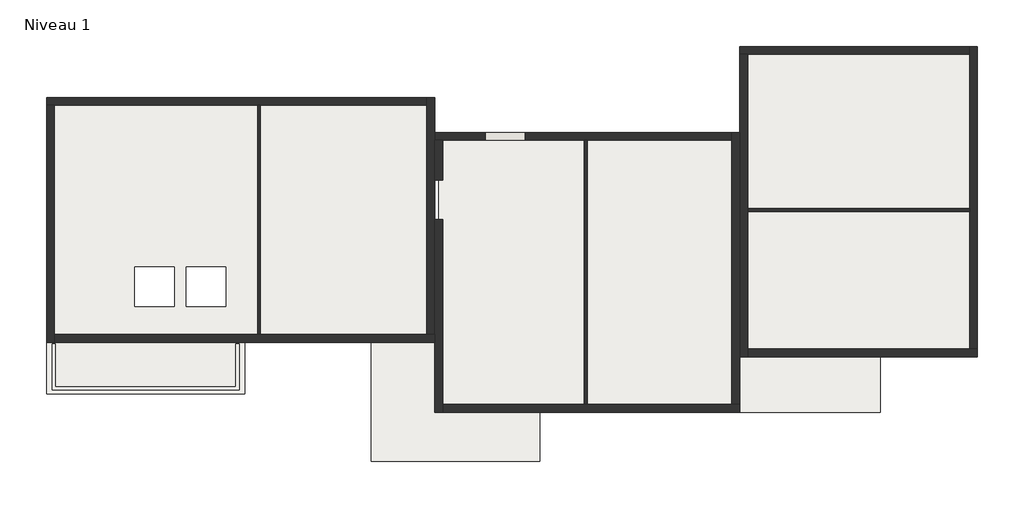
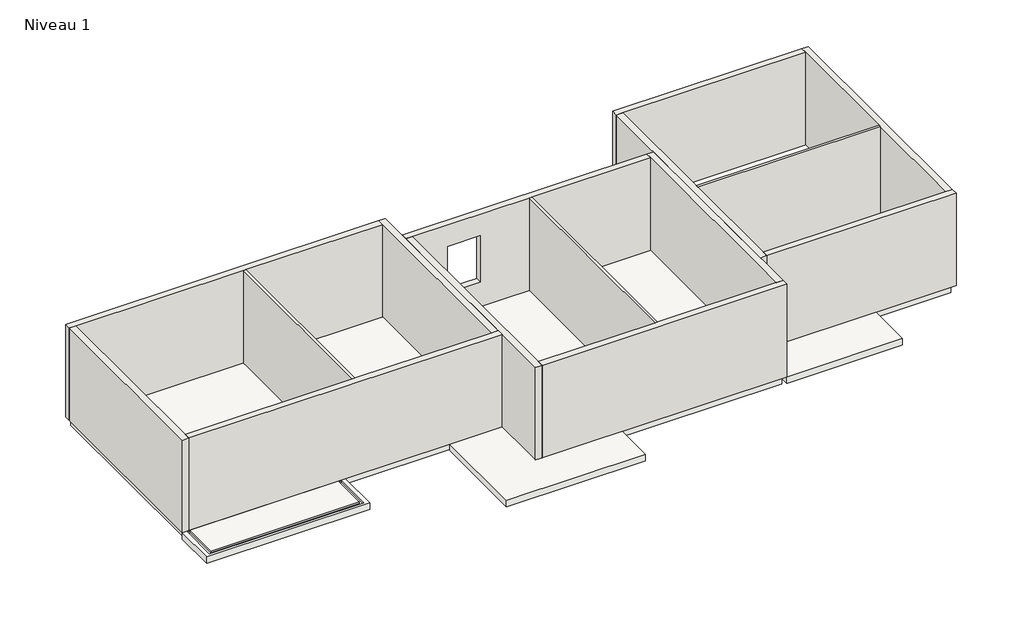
# One storey: 15 walls, 2 slabs.
"""IFC4 building model written with IfcOpenShell, lengths in millimetres."""

from ifc_helpers import new_model, si_unit, frame, origin, place, context, project, spatial, polyline, outline, extrude, faceted_brep, element, save

model = new_model("IFC4")

# Units and contexts
model_context = context("Model", 3, world=origin())
ifc_project = project(units=[si_unit("LENGTHUNIT", "METRE", prefix="MILLI")], contexts=[model_context])

# Site, building, storey
site = spatial("IfcSite", under=ifc_project)
building = spatial("IfcBuilding", under=site)
storey = spatial("IfcBuildingStorey", under=building, Name="Niveau 1", Elevation=3000.0)

# Slabs
placement = place(None, origin())
element("IfcSlab", 1, ObjectType="Dalle en béton - 250 mm", at=placement, inside=storey, context=model_context, shape_type="SweptSolid", body=[
    extrude(outline(polyline([(-1285.4947256, 1512.0061152), (-1285.4947256, -4479.7207763), (-10885.4947256, -4479.7207763), (-10885.4947256, 1512.0061152), (-1285.4947256, 1512.0061152)]), holes=[polyline([(-6455.4947256, -2671.4012839), (-7455.4947256, -2671.4012839), (-7455.4947256, -3671.4012839), (-6455.4947256, -3671.4012839), (-6455.4947256, -2671.4012839)]), polyline([(-7760.2947256, -2671.4012839), (-8760.2947256, -2671.4012839), (-8760.2947256, -3671.4012839), (-7760.2947256, -3671.4012839), (-7760.2947256, -2671.4012839)])]), frame((0.0, 0.0, 2750.0), z_axis=(0.0, 0.0, 1.0), x_axis=(1.0, 0.0, 0.0)), (0.0, 0.0, 1.0), 250.0),
    extrude(outline(polyline([(6414.5052744, -6248.7856024), (-1085.4947256, -6248.7856024), (-1085.4947256, 627.4737022), (6414.5052744, 627.4737022), (6414.5052744, -6248.7856024)])), frame((0.0, 0.0, 2750.0), z_axis=(0.0, 0.0, 1.0), x_axis=(1.0, 0.0, 0.0)), (0.0, 0.0, 1.0), 250.0),
    extrude(outline(polyline([(12414.5052744, 2798.5987161), (12414.5052744, -4841.5749452), (6614.5052744, -4841.5749452), (6614.5052744, 2798.5987161), (12414.5052744, 2798.5987161)])), frame((0.0, 0.0, 2750.0), z_axis=(0.0, 0.0, 1.0), x_axis=(1.0, 0.0, 0.0)), (0.0, 0.0, 1.0), 250.0),
])
element("IfcSlab", 2, ObjectType="Béton 160 mm avec platelage métallique 50 mm", at=placement, inside=storey, context=model_context, shape_type="Brep", body=[
    faceted_brep([(-5985.4947256, -4579.7207763, 2790.0), (-5985.4947256, -5879.7207763, 2790.0), (-10985.4947256, -5879.7207763, 2790.0), (-10985.4947256, -4579.7207763, 2790.0), (-5985.4947256, -5879.7207763, 3000.0), (-5985.4947256, -4579.7207763, 3000.0), (-10985.4947256, -4579.7207763, 3000.0), (-10985.4947256, -5879.7207763, 3000.0), (-10845.4947256, -4619.7207763, 3000.0), (-10765.4947256, -4619.7207763, 3000.0), (-10765.4947256, -5698.0339874, 3000.0), (-6205.4947256, -5698.0339874, 3000.0), (-6205.4947256, -4619.7207763, 3000.0), (-6125.4947256, -4619.7207763, 3000.0), (-6125.4947256, -5778.0339874, 3000.0), (-10845.4947256, -5778.0339874, 3000.0), (-10845.4947256, -4619.7207763, 2950.0), (-10765.4947256, -4619.7207763, 2950.0), (-10845.4947256, -5778.0339874, 2950.0), (-10765.4947256, -5698.0339874, 2950.0), (-6125.4947256, -5778.0339874, 2950.0), (-6125.4947256, -4619.7207763, 2950.0), (-6205.4947256, -4619.7207763, 2950.0), (-6205.4947256, -5698.0339874, 2950.0)], [[[0, 1, 2, 3]], [[4, 5, 6, 7], [8, 9, 10, 11, 12, 13, 14, 15]], [[1, 0, 5, 4]], [[2, 1, 4, 7]], [[3, 2, 7, 6]], [[0, 3, 6, 5]], [[16, 17, 9, 8]], [[16, 8, 15, 18]], [[9, 17, 19, 10]], [[17, 16, 18, 20, 21, 22, 23, 19]], [[18, 15, 14, 20]], [[10, 19, 23, 11]], [[22, 21, 13, 12]], [[21, 20, 14, 13]], [[23, 22, 12, 11]]]),
    faceted_brep([(-2785.4947256, -4579.7207763, 2790.0), (-1185.4947256, -4579.7207763, 2790.0), (-1185.4947256, -6348.7856024, 2790.0), (1465.844903, -6348.7856024, 2790.0), (1465.844903, -7579.7207763, 2790.0), (-2785.4947256, -7579.7207763, 2790.0), (-1185.4947256, -4579.7207763, 3000.0), (-2785.4947256, -4579.7207763, 3000.0), (-2785.4947256, -7579.7207763, 3000.0), (1465.844903, -7579.7207763, 3000.0), (1465.844903, -6348.7856024, 3000.0), (-1185.4947256, -6348.7856024, 3000.0)], [[[0, 1, 2, 3, 4, 5]], [[6, 7, 8, 9, 10, 11]], [[1, 0, 7, 6]], [[2, 1, 6, 11]], [[3, 2, 11, 10]], [[4, 3, 10, 9]], [[5, 4, 9, 8]], [[0, 5, 8, 7]]]),
    faceted_brep([(10057.959891, -6348.7856024, 2790.0), (6514.5052744, -6348.7856024, 2790.0), (6514.5052744, -4941.5749452, 2790.0), (10057.959891, -4941.5749452, 2790.0), (6514.5052744, -6348.7856024, 3000.0), (10057.959891, -6348.7856024, 3000.0), (10057.959891, -4941.5749452, 3000.0), (6514.5052744, -4941.5749452, 3000.0)], [[[0, 1, 2, 3]], [[4, 5, 6, 7]], [[1, 0, 5, 4]], [[2, 1, 4, 7]], [[3, 2, 7, 6]], [[0, 3, 6, 5]]]),
])

# Walls
element("IfcWall", 3, ObjectType="Générique - Ext. 200 mm", at=placement, inside=storey, context=model_context, shape_type="Brep", body=[
    faceted_brep([(-10985.4947256, 1412.0061152, 3000.0), (-10785.4947256, 1412.0061152, 3000.0), (-5655.4947256, 1412.0061152, 3000.0), (-5585.4947256, 1412.0061152, 3000.0), (-1385.4947256, 1412.0061152, 3000.0), (-1385.4947256, 1412.0061152, 6000.0), (-5585.4947256, 1412.0061152, 6000.0), (-5655.4947256, 1412.0061152, 6000.0), (-10785.4947256, 1412.0061152, 6000.0), (-10985.4947256, 1412.0061152, 6000.0), (-10985.4947256, 1612.0061152, 3000.0), (-10985.4947256, 1612.0061152, 6000.0), (-1385.4947256, 1612.0061152, 6000.0), (-1385.4947256, 1612.0061152, 3000.0)], [[[0, 1, 2, 3, 4, 5, 6, 7, 8, 9]], [[10, 11, 12, 13]], [[4, 3, 2, 1, 0, 10, 13]], [[9, 8, 7, 6, 5, 12, 11]], [[0, 9, 11, 10]], [[5, 4, 13, 12]]]),
])
element("IfcWall", 4, ObjectType="Générique - Ext. 200 mm", at=placement, inside=storey, context=model_context, shape_type="Brep", body=[
    faceted_brep([(-10785.4947256, -4579.7207763, 3000.0), (-10785.4947256, -4379.7207763, 3000.0), (-10785.4947256, 1412.0061152, 3000.0), (-10785.4947256, 1412.0061152, 6000.0), (-10785.4947256, -4379.7207763, 6000.0), (-10785.4947256, -4579.7207763, 6000.0), (-10985.4947256, -4579.7207763, 3000.0), (-10985.4947256, -4579.7207763, 6000.0), (-10985.4947256, 1412.0061152, 6000.0), (-10985.4947256, 1412.0061152, 3000.0)], [[[0, 1, 2, 3, 4, 5]], [[6, 7, 8, 9]], [[2, 1, 0, 6, 9]], [[5, 4, 3, 8, 7]], [[0, 5, 7, 6]], [[3, 2, 9, 8]]]),
])
element("IfcWall", 5, ObjectType="Générique - Ext. 200 mm", at=placement, inside=storey, context=model_context, shape_type="Brep", body=[
    faceted_brep([(-1185.4947256, -4379.7207763, 3000.0), (-1385.4947256, -4379.7207763, 3000.0), (-5585.4947256, -4379.7207763, 3000.0), (-5655.4947256, -4379.7207763, 3000.0), (-10785.4947256, -4379.7207763, 3000.0), (-10785.4947256, -4379.7207763, 6000.0), (-5655.4947256, -4379.7207763, 6000.0), (-5585.4947256, -4379.7207763, 6000.0), (-1385.4947256, -4379.7207763, 6000.0), (-1185.4947256, -4379.7207763, 6000.0), (-1185.4947256, -4579.7207763, 3000.0), (-1185.4947256, -4579.7207763, 6000.0), (-10785.4947256, -4579.7207763, 6000.0), (-10785.4947256, -4579.7207763, 3000.0)], [[[0, 1, 2, 3, 4, 5, 6, 7, 8, 9]], [[10, 11, 12, 13]], [[4, 3, 2, 1, 0, 10, 13]], [[9, 8, 7, 6, 5, 12, 11]], [[0, 9, 11, 10]], [[5, 4, 13, 12]]]),
])
element("IfcWall", 6, ObjectType="Générique - Ext. 200 mm", at=placement, inside=storey, context=model_context, shape_type="Brep", body=[
    faceted_brep([(-1385.4947256, 1612.0061152, 3000.0), (-1385.4947256, 1412.0061152, 3000.0), (-1385.4947256, -4379.7207763, 3000.0), (-1385.4947256, -4379.7207763, 6000.0), (-1385.4947256, 1412.0061152, 6000.0), (-1385.4947256, 1612.0061152, 6000.0), (-1185.4947256, 1612.0061152, 3000.0), (-1185.4947256, 1612.0061152, 6000.0), (-1185.4947256, -4379.7207763, 6000.0), (-1185.4947256, -4379.7207763, 3000.0)], [[[0, 1, 2, 3, 4, 5]], [[6, 7, 8, 9]], [[2, 1, 0, 6, 9]], [[5, 4, 3, 8, 7]], [[0, 5, 7, 6]], [[3, 2, 9, 8]]]),
])
element("IfcWall", 7, ObjectType="Générique - Ext. 200 mm", at=placement, inside=storey, context=model_context, shape_type="Brep", body=[
    faceted_brep([(-1185.4947256, 527.4737022, 3000.0), (-985.4947256, 527.4737022, 3000.0), (2594.5052744, 527.4737022, 3000.0), (2664.5052744, 527.4737022, 3000.0), (6314.5052744, 527.4737022, 3000.0), (6314.5052744, 527.4737022, 6000.0), (2664.5052744, 527.4737022, 6000.0), (2594.5052744, 527.4737022, 6000.0), (-985.4947256, 527.4737022, 6000.0), (-1185.4947256, 527.4737022, 6000.0), (1094.5052744, 527.4737022, 3800.0), (94.5052744, 527.4737022, 3800.0), (94.5052744, 527.4737022, 5300.0), (1094.5052744, 527.4737022, 5300.0), (-1185.4947256, 727.4737022, 3000.0), (-1185.4947256, 727.4737022, 6000.0), (6314.5052744, 727.4737022, 6000.0), (6314.5052744, 727.4737022, 3000.0), (1094.5052744, 727.4737022, 3800.0), (1094.5052744, 727.4737022, 5300.0), (94.5052744, 727.4737022, 5300.0), (94.5052744, 727.4737022, 3800.0)], [[[0, 1, 2, 3, 4, 5, 6, 7, 8, 9], [10, 11, 12, 13]], [[14, 15, 16, 17], [18, 19, 20, 21]], [[4, 3, 2, 1, 0, 14, 17]], [[9, 8, 7, 6, 5, 16, 15]], [[0, 9, 15, 14]], [[5, 4, 17, 16]], [[19, 18, 10, 13]], [[20, 19, 13, 12]], [[21, 20, 12, 11]], [[18, 21, 11, 10]]]),
])
element("IfcWall", 8, ObjectType="Générique - Ext. 200 mm", at=placement, inside=storey, context=model_context, shape_type="Brep", body=[
    faceted_brep([(-985.4947256, 527.4737022, 6000.0), (-985.4947256, -6148.7856024, 6000.0), (-985.4947256, -6348.7856024, 6000.0), (-985.4947256, -6348.7856024, 3000.0), (-985.4947256, -6148.7856024, 3000.0), (-985.4947256, -1472.5262978, 3000.0), (-985.4947256, -1472.5262978, 5000.0), (-985.4947256, -472.5262978, 5000.0), (-985.4947256, -472.5262978, 3000.0), (-985.4947256, 527.4737022, 3000.0), (-1185.4947256, -6348.7856024, 6000.0), (-1185.4947256, 527.4737022, 6000.0), (-1185.4947256, 527.4737022, 3000.0), (-1185.4947256, -472.5262978, 3000.0), (-1185.4947256, -472.5262978, 5000.0), (-1185.4947256, -1472.5262978, 5000.0), (-1185.4947256, -1472.5262978, 3000.0), (-1185.4947256, -6348.7856024, 3000.0)], [[[0, 1, 2, 3, 4, 5, 6, 7, 8, 9]], [[10, 11, 12, 13, 14, 15, 16, 17]], [[3, 17, 16, 5, 4]], [[12, 9, 8, 13]], [[2, 1, 0, 11, 10]], [[3, 2, 10, 17]], [[0, 9, 12, 11]], [[15, 6, 5, 16]], [[6, 15, 14, 7]], [[7, 14, 13, 8]]]),
])
element("IfcWall", 9, ObjectType="Générique - Ext. 200 mm", at=placement, inside=storey, context=model_context, shape_type="Brep", body=[
    faceted_brep([(6514.5052744, -6148.7856024, 3000.0), (6314.5052744, -6148.7856024, 3000.0), (2664.5052744, -6148.7856024, 3000.0), (2594.5052744, -6148.7856024, 3000.0), (-985.4947256, -6148.7856024, 3000.0), (-985.4947256, -6148.7856024, 6000.0), (2594.5052744, -6148.7856024, 6000.0), (2664.5052744, -6148.7856024, 6000.0), (6314.5052744, -6148.7856024, 6000.0), (6514.5052744, -6148.7856024, 6000.0), (6514.5052744, -6348.7856024, 3000.0), (6514.5052744, -6348.7856024, 6000.0), (-985.4947256, -6348.7856024, 6000.0), (-985.4947256, -6348.7856024, 3000.0)], [[[0, 1, 2, 3, 4, 5, 6, 7, 8, 9]], [[10, 11, 12, 13]], [[4, 3, 2, 1, 0, 10, 13]], [[9, 8, 7, 6, 5, 12, 11]], [[0, 9, 11, 10]], [[5, 4, 13, 12]]]),
])
element("IfcWall", 10, ObjectType="Générique - Ext. 200 mm", at=placement, inside=storey, context=model_context, shape_type="Brep", body=[
    faceted_brep([(6314.5052744, 727.4737022, 3000.0), (6314.5052744, 527.4737022, 3000.0), (6314.5052744, -6148.7856024, 3000.0), (6314.5052744, -6148.7856024, 6000.0), (6314.5052744, 527.4737022, 6000.0), (6314.5052744, 727.4737022, 6000.0), (6514.5052744, 727.4737022, 3000.0), (6514.5052744, 727.4737022, 6000.0), (6514.5052744, -6148.7856024, 6000.0), (6514.5052744, -6148.7856024, 3000.0)], [[[0, 1, 2, 3, 4, 5]], [[6, 7, 8, 9]], [[2, 1, 0, 6, 9]], [[5, 4, 3, 8, 7]], [[0, 5, 7, 6]], [[3, 2, 9, 8]]]),
])
element("IfcWall", 11, ObjectType="Générique - Ext. 200 mm", at=placement, inside=storey, context=model_context, shape_type="Brep", body=[
    faceted_brep([(6514.5052744, 2698.5987161, 3000.0), (6714.5052744, 2698.5987161, 3000.0), (12314.5052744, 2698.5987161, 3000.0), (12314.5052744, 2698.5987161, 6000.0), (6714.5052744, 2698.5987161, 6000.0), (6514.5052744, 2698.5987161, 6000.0), (6514.5052744, 2898.5987161, 3000.0), (6514.5052744, 2898.5987161, 6000.0), (12314.5052744, 2898.5987161, 6000.0), (12314.5052744, 2898.5987161, 3000.0)], [[[0, 1, 2, 3, 4, 5]], [[6, 7, 8, 9]], [[2, 1, 0, 6, 9]], [[5, 4, 3, 8, 7]], [[0, 5, 7, 6]], [[3, 2, 9, 8]]]),
])
element("IfcWall", 12, ObjectType="Générique - Ext. 200 mm", at=placement, inside=storey, context=model_context, shape_type="Brep", body=[
    faceted_brep([(6714.5052744, -4941.5749452, 3000.0), (6714.5052744, -4741.5749452, 3000.0), (6714.5052744, -1271.4012839, 3000.0), (6714.5052744, -1201.4012839, 3000.0), (6714.5052744, 2698.5987161, 3000.0), (6714.5052744, 2698.5987161, 6000.0), (6714.5052744, -1201.4012839, 6000.0), (6714.5052744, -1271.4012839, 6000.0), (6714.5052744, -4741.5749452, 6000.0), (6714.5052744, -4941.5749452, 6000.0), (6514.5052744, -4941.5749452, 3000.0), (6514.5052744, -4941.5749452, 6000.0), (6514.5052744, 2698.5987161, 6000.0), (6514.5052744, 2698.5987161, 3000.0)], [[[0, 1, 2, 3, 4, 5, 6, 7, 8, 9]], [[10, 11, 12, 13]], [[4, 3, 2, 1, 0, 10, 13]], [[9, 8, 7, 6, 5, 12, 11]], [[0, 9, 11, 10]], [[5, 4, 13, 12]]]),
])
element("IfcWall", 13, ObjectType="Générique - Ext. 200 mm", at=placement, inside=storey, context=model_context, shape_type="Brep", body=[
    faceted_brep([(12514.5052744, -4741.5749452, 3000.0), (12314.5052744, -4741.5749452, 3000.0), (6714.5052744, -4741.5749452, 3000.0), (6714.5052744, -4741.5749452, 6000.0), (12314.5052744, -4741.5749452, 6000.0), (12514.5052744, -4741.5749452, 6000.0), (12514.5052744, -4941.5749452, 3000.0), (12514.5052744, -4941.5749452, 6000.0), (6714.5052744, -4941.5749452, 6000.0), (6714.5052744, -4941.5749452, 3000.0)], [[[0, 1, 2, 3, 4, 5]], [[6, 7, 8, 9]], [[2, 1, 0, 6, 9]], [[5, 4, 3, 8, 7]], [[0, 5, 7, 6]], [[3, 2, 9, 8]]]),
])
element("IfcWall", 14, ObjectType="Générique - Ext. 200 mm", at=placement, inside=storey, context=model_context, shape_type="Brep", body=[
    faceted_brep([(12314.5052744, 2898.5987161, 3000.0), (12314.5052744, 2698.5987161, 3000.0), (12314.5052744, -1201.4012839, 3000.0), (12314.5052744, -1271.4012839, 3000.0), (12314.5052744, -4741.5749452, 3000.0), (12314.5052744, -4741.5749452, 6000.0), (12314.5052744, -1271.4012839, 6000.0), (12314.5052744, -1201.4012839, 6000.0), (12314.5052744, 2698.5987161, 6000.0), (12314.5052744, 2898.5987161, 6000.0), (12514.5052744, 2898.5987161, 3000.0), (12514.5052744, 2898.5987161, 6000.0), (12514.5052744, -4741.5749452, 6000.0), (12514.5052744, -4741.5749452, 3000.0)], [[[0, 1, 2, 3, 4, 5, 6, 7, 8, 9]], [[10, 11, 12, 13]], [[4, 3, 2, 1, 0, 10, 13]], [[9, 8, 7, 6, 5, 12, 11]], [[0, 9, 11, 10]], [[5, 4, 13, 12]]]),
])
element("IfcWall", 15, ObjectType="Générique - Int. 70 mm", at=placement, inside=storey, context=model_context, shape_type="SweptSolid", body=[
    extrude(outline(polyline([(-5655.4947256, -4379.7207763), (-5655.4947256, 1412.0061152), (-5585.4947256, 1412.0061152), (-5585.4947256, -4379.7207763), (-5655.4947256, -4379.7207763)])), frame((0.0, 0.0, 3000.0), z_axis=(0.0, 0.0, 1.0), x_axis=(1.0, 0.0, 0.0)), (0.0, 0.0, 1.0), 3000.0),
])
element("IfcWall", 16, ObjectType="Générique - Int. 70 mm", at=placement, inside=storey, context=model_context, shape_type="SweptSolid", body=[
    extrude(outline(polyline([(12314.5052744, -1271.4012839), (6714.5052744, -1271.4012839), (6714.5052744, -1201.4012839), (12314.5052744, -1201.4012839), (12314.5052744, -1271.4012839)])), frame((0.0, 0.0, 3000.0), z_axis=(0.0, 0.0, 1.0), x_axis=(1.0, 0.0, 0.0)), (0.0, 0.0, 1.0), 3000.0),
])
element("IfcWall", 17, ObjectType="Générique - Int. 70 mm", at=placement, inside=storey, context=model_context, shape_type="SweptSolid", body=[
    extrude(outline(polyline([(2594.5052744, -6148.7856024), (2594.5052744, 527.4737022), (2664.5052744, 527.4737022), (2664.5052744, -6148.7856024), (2594.5052744, -6148.7856024)])), frame((0.0, 0.0, 3000.0), z_axis=(0.0, 0.0, 1.0), x_axis=(1.0, 0.0, 0.0)), (0.0, 0.0, 1.0), 3000.0),
])

save(model, "model.ifc")
